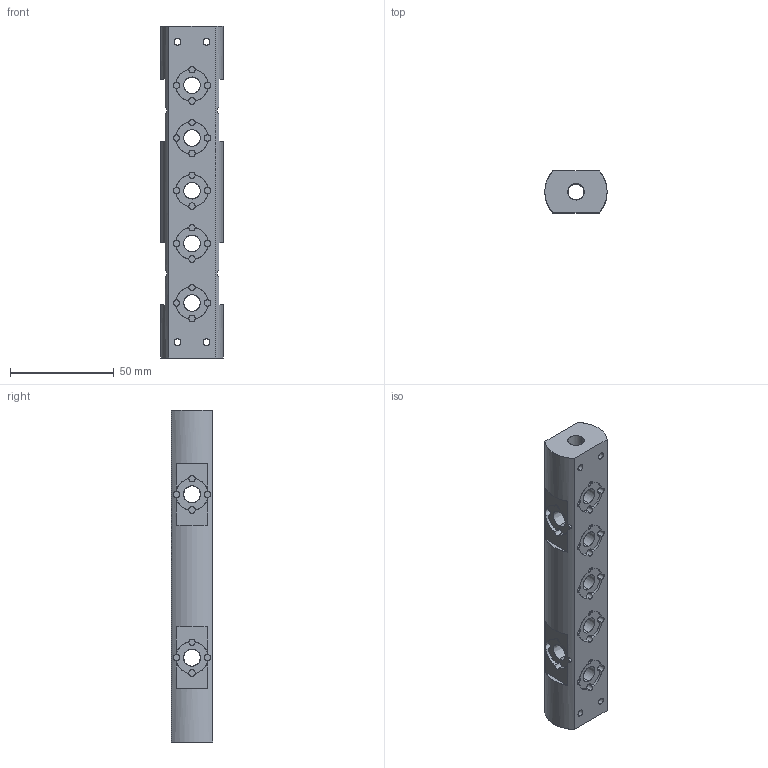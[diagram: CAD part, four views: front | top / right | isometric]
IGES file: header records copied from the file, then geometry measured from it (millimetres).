
Start section: SolidWorks IGES file using analytic representation for surfaces
Global section: file name: C:\Users\serkan\Desktop\f65_handle_rod.IGS; native system: SolidWorks 2011; preprocessor: SolidWorks 2011; author: serkan; date: 120726.140230; units: millimetre
Bounding box: 30 x 20 x 160 mm (x, y, z)
Surface area: 24221.1 mm2 (no closed solid volume)
Topology: 0 solids, 0 shells, 391 faces, 8452 edges, 8452 vertices
Faces by surface type: revolution 241, bspline 150
